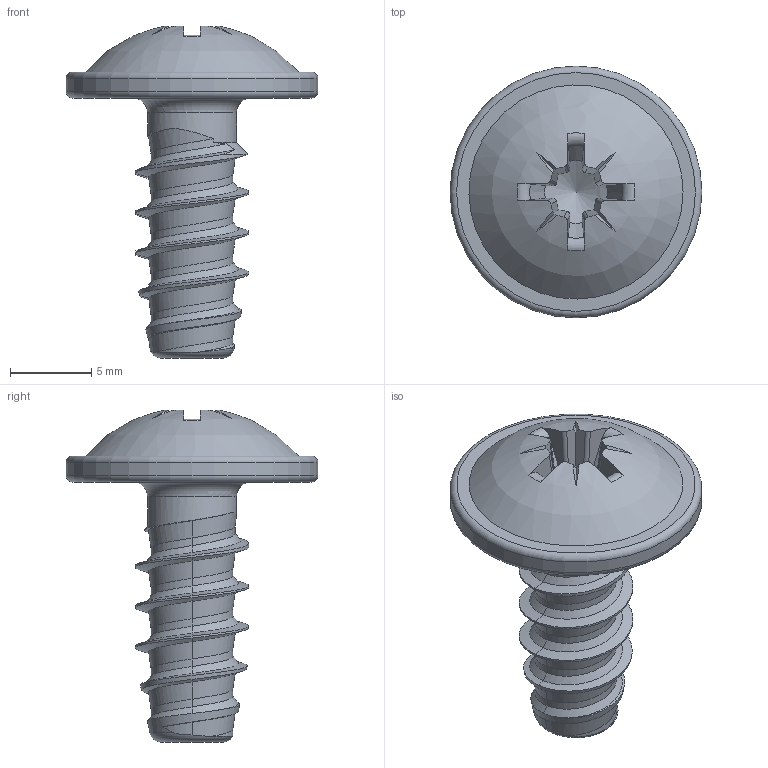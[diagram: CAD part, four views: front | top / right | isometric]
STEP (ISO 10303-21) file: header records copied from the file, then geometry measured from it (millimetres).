
FILE_DESCRIPTION(/* description */ (''),/* implementation_level */ '2;1');
FILE_NAME(/* name */ 'KN6031-STSplus-70x16-Z3.step',/* time_stamp */ '2017-10-09T17:07:57+02:00',/* author */ (''),/* organization */ (''),/* preprocessor_version */ 'ST-DEVELOPER v16',/* originating_system */ 'SIEMENS PLM Software NX 10.0',/* authorisation */ '');
FILE_SCHEMA (('AUTOMOTIVE_DESIGN { 1 0 10303 214 3 1 1 1 }'));
Length unit declared in the file: millimetre
Products named in the file (1): KN6031-STSplus-70x16-Z3
Bounding box: 15.5 x 15.5 x 20.43 mm (x, y, z)
Volume: 853.8 mm3; surface area: 866.4 mm2
Topology: 1 solids, 1 shells, 85 faces, 220 edges, 138 vertices
Faces by surface type: bspline 31, plane 27, cylinder 11, torus 8, cone 7, sphere 1
Full cylindrical faces by diameter (mm): 5.48 x1, 15.5 x1
Entity records: 4612 total; most frequent: CARTESIAN_POINT 2840, ORIENTED_EDGE 412, DIRECTION 265, EDGE_CURVE 206, VERTEX_POINT 133, AXIS2_PLACEMENT_3D 103, B_SPLINE_CURVE_WITH_KNOTS 99, EDGE_LOOP 94
